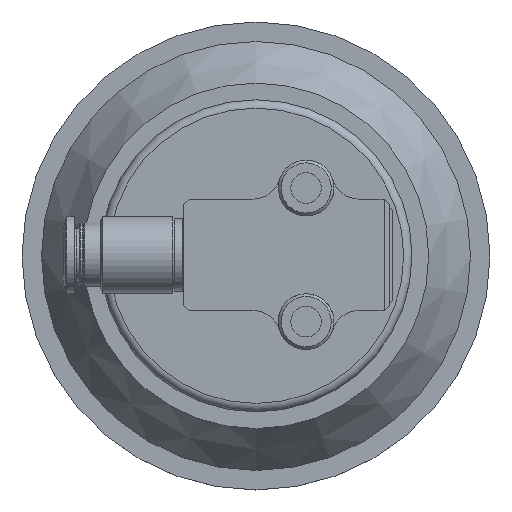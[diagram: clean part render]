
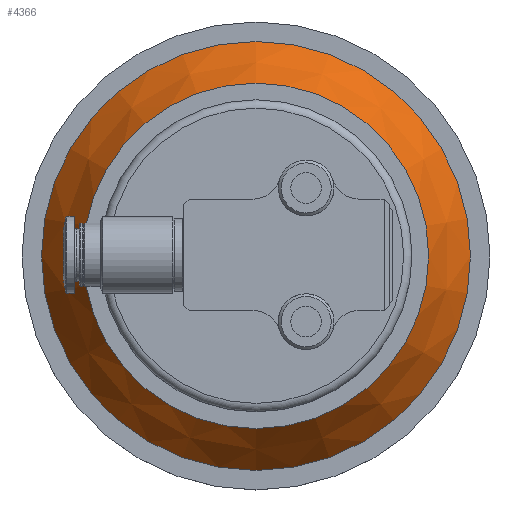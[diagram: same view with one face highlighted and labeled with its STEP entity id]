
A CAD part, top view. The second image highlights one B-rep face of the part: STEP entity #4366.
In plain terms, the highlighted conical face has half-angle 33.111 degrees and reference radius 31 mm.
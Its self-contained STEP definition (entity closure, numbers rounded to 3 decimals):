
#121=CONICAL_SURFACE('',#4722,31.,0.578);
#1216=ORIENTED_EDGE('',*,*,#1693,.T.);
#1217=ORIENTED_EDGE('',*,*,#1694,.F.);
#1693=EDGE_CURVE('',#1979,#1979,#2157,.T.);
#1694=EDGE_CURVE('',#1980,#1980,#2158,.T.);
#1979=VERTEX_POINT('',#6995);
#1980=VERTEX_POINT('',#6998);
#2157=CIRCLE('',#4721,38.5);
#2158=CIRCLE('',#4723,31.);
#2413=EDGE_LOOP('',(#1216));
#2414=EDGE_LOOP('',(#1217));
#2693=FACE_BOUND('',#2413,.T.);
#2694=FACE_BOUND('',#2414,.T.);
#4366=ADVANCED_FACE('',(#2693,#2694),#121,.T.);
#4721=AXIS2_PLACEMENT_3D('',#6994,#5596,#5597);
#4722=AXIS2_PLACEMENT_3D('',#6996,#5598,#5599);
#4723=AXIS2_PLACEMENT_3D('',#6997,#5600,#5601);
#5596=DIRECTION('',(0.,0.,1.));
#5597=DIRECTION('',(0.,-1.,0.));
#5598=DIRECTION('',(0.,0.,-1.));
#5599=DIRECTION('',(0.,1.,0.));
#5600=DIRECTION('',(0.,0.,1.));
#5601=DIRECTION('',(0.,-1.,0.));
#6994=CARTESIAN_POINT('',(0.,0.,-30.05));
#6995=CARTESIAN_POINT('',(0.,-38.5,-30.05));
#6996=CARTESIAN_POINT('',(0.,0.,-18.55));
#6997=CARTESIAN_POINT('',(0.,0.,-18.55));
#6998=CARTESIAN_POINT('',(0.,-31.,-18.55));
